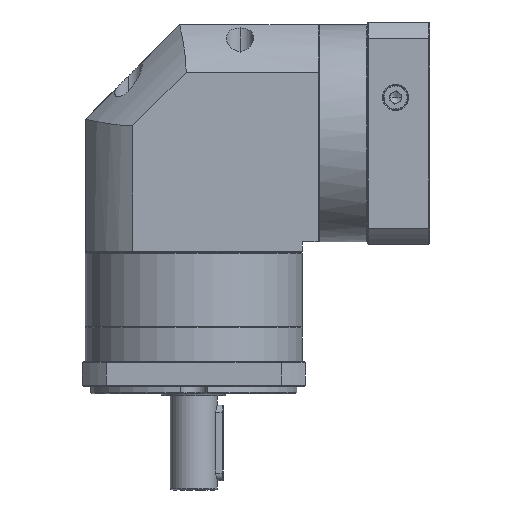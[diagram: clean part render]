
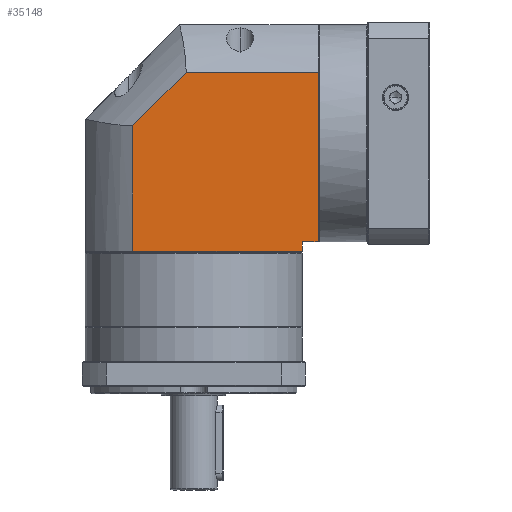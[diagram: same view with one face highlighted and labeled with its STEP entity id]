
A CAD part, front view. The second image highlights one B-rep face of the part: STEP entity #35148.
In plain terms, the highlighted planar face has unit normal (0, -1, 0).
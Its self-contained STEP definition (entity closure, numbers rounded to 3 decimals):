
#1381 = PLANE ( 'NONE',  #103416 ) ;
#3893 = ORIENTED_EDGE ( 'NONE', *, *, #7864, .F. ) ;
#5112 = LINE ( 'NONE', #99067, #84504 ) ;
#5448 = FACE_OUTER_BOUND ( 'NONE', #101426, .T. ) ;
#7864 = EDGE_CURVE ( 'NONE', #63898, #88500, #5112, .T. ) ;
#11384 = DIRECTION ( 'NONE',  ( 0., 1., 0. ) ) ;
#11800 = VECTOR ( 'NONE', #125188, 1000. ) ;
#17990 = EDGE_CURVE ( 'NONE', #115213, #63898, #125851, .T. ) ;
#20963 = DIRECTION ( 'NONE',  ( 1., 0., 0. ) ) ;
#21254 = CARTESIAN_POINT ( 'NONE',  ( 107.232, 4.458, -66.288 ) ) ;
#22009 = EDGE_CURVE ( 'NONE', #88500, #101250, #38568, .T. ) ;
#28113 = CARTESIAN_POINT ( 'NONE',  ( 115.632, 4.458, -66.288 ) ) ;
#29637 = EDGE_CURVE ( 'NONE', #133168, #46085, #112788, .T. ) ;
#31839 = CARTESIAN_POINT ( 'NONE',  ( -7.768, 4.458, -66.288 ) ) ;
#32396 = VECTOR ( 'NONE', #96465, 1000. ) ;
#35148 = ADVANCED_FACE ( 'NONE', ( #5448 ), #1381, .F. ) ;
#36160 = CARTESIAN_POINT ( 'NONE',  ( 17.332, 4.458, 6.774 ) ) ;
#37092 = DIRECTION ( 'NONE',  ( 1., 0., 0. ) ) ;
#38568 = LINE ( 'NONE', #28113, #117840 ) ;
#39272 = CARTESIAN_POINT ( 'NONE',  ( 115.632, 4.458, -54.788 ) ) ;
#45045 = EDGE_CURVE ( 'NONE', #101250, #133168, #132668, .T. ) ;
#46085 = VERTEX_POINT ( 'NONE', #67863 ) ;
#46848 = ORIENTED_EDGE ( 'NONE', *, *, #17990, .F. ) ;
#49117 = CARTESIAN_POINT ( 'NONE',  ( 115.632, 4.458, 35.112 ) ) ;
#49651 = ORIENTED_EDGE ( 'NONE', *, *, #105589, .F. ) ;
#53629 = CARTESIAN_POINT ( 'NONE',  ( 107.232, 4.458, -54.788 ) ) ;
#57342 = DIRECTION ( 'NONE',  ( -1., 0., 0. ) ) ;
#59361 = VECTOR ( 'NONE', #83183, 1000. ) ;
#60434 = LINE ( 'NONE', #115693, #11800 ) ;
#63898 = VERTEX_POINT ( 'NONE', #107825 ) ;
#67863 = CARTESIAN_POINT ( 'NONE',  ( 107.232, 4.458, -59.788 ) ) ;
#69867 = EDGE_CURVE ( 'NONE', #46085, #103508, #124680, .T. ) ;
#74422 = CARTESIAN_POINT ( 'NONE',  ( 17.332, 4.458, 6.774 ) ) ;
#83183 = DIRECTION ( 'NONE',  ( 0., 0., -1. ) ) ;
#84177 = VECTOR ( 'NONE', #57342, 1000. ) ;
#84504 = VECTOR ( 'NONE', #37092, 1000. ) ;
#85921 = ORIENTED_EDGE ( 'NONE', *, *, #69867, .F. ) ;
#87679 = CARTESIAN_POINT ( 'NONE',  ( -7.768, 4.458, -59.788 ) ) ;
#88500 = VERTEX_POINT ( 'NONE', #49117 ) ;
#96465 = DIRECTION ( 'NONE',  ( -1., 0., 0. ) ) ;
#98358 = VECTOR ( 'NONE', #105239, 1000. ) ;
#99067 = CARTESIAN_POINT ( 'NONE',  ( -7.768, 4.458, 35.112 ) ) ;
#101250 = VERTEX_POINT ( 'NONE', #39272 ) ;
#101426 = EDGE_LOOP ( 'NONE', ( #132432, #110088, #121835, #3893, #46848, #49651, #85921 ) ) ;
#103416 = AXIS2_PLACEMENT_3D ( 'NONE', #31839, #11384, #20963 ) ;
#103508 = VERTEX_POINT ( 'NONE', #109115 ) ;
#105239 = DIRECTION ( 'NONE',  ( 0.707, 0., 0.707 ) ) ;
#105589 = EDGE_CURVE ( 'NONE', #103508, #115213, #60434, .T. ) ;
#107825 = CARTESIAN_POINT ( 'NONE',  ( 45.67, 4.458, 35.112 ) ) ;
#109115 = CARTESIAN_POINT ( 'NONE',  ( 17.332, 4.458, -59.788 ) ) ;
#110088 = ORIENTED_EDGE ( 'NONE', *, *, #45045, .F. ) ;
#110810 = DIRECTION ( 'NONE',  ( 0., 0., -1. ) ) ;
#112788 = LINE ( 'NONE', #21254, #59361 ) ;
#115213 = VERTEX_POINT ( 'NONE', #36160 ) ;
#115693 = CARTESIAN_POINT ( 'NONE',  ( 17.332, 4.458, -66.288 ) ) ;
#117840 = VECTOR ( 'NONE', #110810, 1000. ) ;
#121835 = ORIENTED_EDGE ( 'NONE', *, *, #22009, .F. ) ;
#124680 = LINE ( 'NONE', #87679, #84177 ) ;
#125188 = DIRECTION ( 'NONE',  ( 0., 0., 1. ) ) ;
#125851 = LINE ( 'NONE', #74422, #98358 ) ;
#127211 = CARTESIAN_POINT ( 'NONE',  ( -7.768, 4.458, -54.788 ) ) ;
#132432 = ORIENTED_EDGE ( 'NONE', *, *, #29637, .F. ) ;
#132668 = LINE ( 'NONE', #127211, #32396 ) ;
#133168 = VERTEX_POINT ( 'NONE', #53629 ) ;
